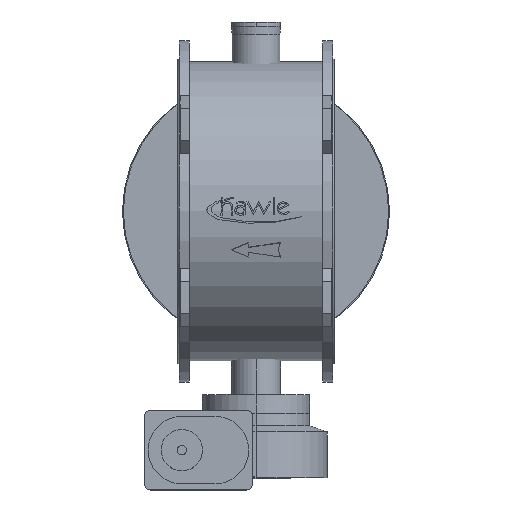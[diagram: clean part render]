
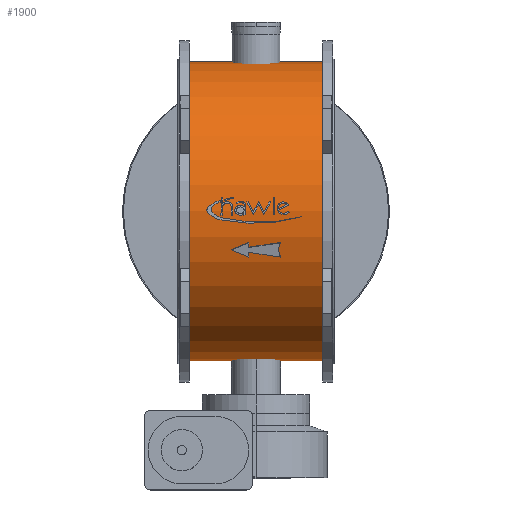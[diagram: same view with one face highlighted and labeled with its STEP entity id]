
A CAD part, top view. The second image highlights one B-rep face of the part: STEP entity #1900.
In plain terms, the highlighted cylindrical face has radius 488 mm (diameter 976 mm), a partial arc.
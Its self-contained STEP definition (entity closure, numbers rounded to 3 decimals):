
#1900=ADVANCED_FACE('',(#3612),#3613,.T.);
#3612=FACE_OUTER_BOUND('',#5467,.T.);
#3613=CYLINDRICAL_SURFACE('',#5468,488.0);
#5467=EDGE_LOOP('',(#9183,#9184,#9185,#9186));
#5468=AXIS2_PLACEMENT_3D('',#9187,#9188,#9189);
#9183=ORIENTED_EDGE('',*,*,#11178,.T.);
#9184=ORIENTED_EDGE('',*,*,#10600,.T.);
#9185=ORIENTED_EDGE('',*,*,#11180,.T.);
#9186=ORIENTED_EDGE('',*,*,#11256,.T.);
#9187=CARTESIAN_POINT('',(-472.5,0.,0.0));
#9188=DIRECTION('',(1.0,0.,0.0));
#9189=DIRECTION('',(0.,-1.0,0.0));
#10600=EDGE_CURVE('',#12740,#12741,#12742,.T.);
#11178=EDGE_CURVE('',#13479,#12740,#13480,.T.);
#11180=EDGE_CURVE('',#12741,#13481,#13483,.T.);
#11256=EDGE_CURVE('',#13481,#13479,#13561,.T.);
#12740=VERTEX_POINT('',#15398);
#12741=VERTEX_POINT('',#15399);
#12742=CIRCLE('',#15400,488.0);
#13479=VERTEX_POINT('',#16335);
#13480=LINE('',#16336,#16337);
#13481=VERTEX_POINT('',#16338);
#13483=LINE('',#16340,#16341);
#13561=CIRCLE('',#16433,488.0);
#15398=CARTESIAN_POINT('',(-37.5,-488.0,0.0));
#15399=CARTESIAN_POINT('',(-37.5,488.0,0.));
#15400=AXIS2_PLACEMENT_3D('',#17799,#17800,#17801);
#16335=CARTESIAN_POINT('',(-472.5,-488.0,0.0));
#16336=CARTESIAN_POINT('',(-472.5,-488.0,0.));
#16337=VECTOR('',#18480,1.0);
#16338=CARTESIAN_POINT('',(-472.5,488.0,0.));
#16340=CARTESIAN_POINT('',(-472.5,488.0,0.));
#16341=VECTOR('',#18484,1.0);
#16433=AXIS2_PLACEMENT_3D('',#18550,#18551,#18552);
#17799=CARTESIAN_POINT('',(-37.5,0.,0.0));
#17800=DIRECTION('',(-1.0,0.,0.0));
#17801=DIRECTION('',(0.,-1.0,0.0));
#18480=DIRECTION('',(1.0,0.,0.0));
#18484=DIRECTION('',(-1.0,0.,-0.0));
#18550=CARTESIAN_POINT('',(-472.5,0.,0.0));
#18551=DIRECTION('',(1.0,0.,0.0));
#18552=DIRECTION('',(0.,-1.0,0.0));
